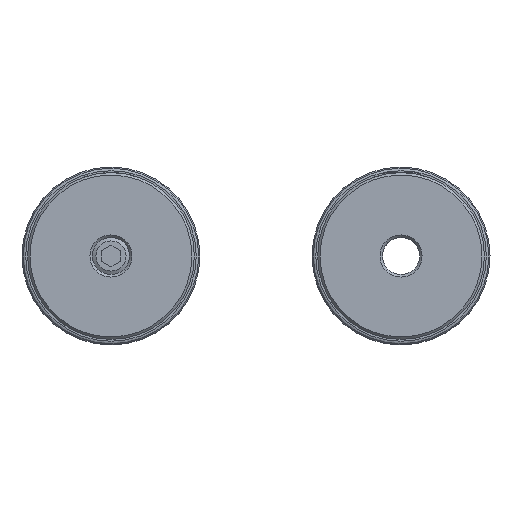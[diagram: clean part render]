
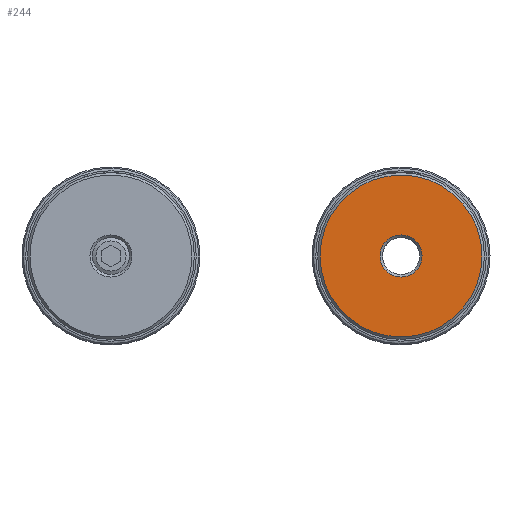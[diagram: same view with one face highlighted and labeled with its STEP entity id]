
A CAD part, left-side view. The second image highlights one B-rep face of the part: STEP entity #244.
In plain terms, the highlighted planar face has unit normal (-1, 0, 0).
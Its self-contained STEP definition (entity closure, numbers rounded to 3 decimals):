
#244 = ADVANCED_FACE( 'NONE', ( #425, #426 ), #427, .F. );
#425 = FACE_OUTER_BOUND( '', #684, .T. );
#426 = FACE_BOUND( '', #685, .T. );
#427 = PLANE( '', #686 );
#684 = EDGE_LOOP( '', ( #972 ) );
#685 = EDGE_LOOP( '', ( #973 ) );
#686 = AXIS2_PLACEMENT_3D( '', #974, #975, #976 );
#972 = ORIENTED_EDGE( '', *, *, #1390, .T. );
#973 = ORIENTED_EDGE( '', *, *, #1384, .T. );
#974 = CARTESIAN_POINT( '', ( 0., 1.5, 0. ) );
#975 = DIRECTION( '', ( 1., 0., 0. ) );
#976 = DIRECTION( '', ( 0., 1., 0. ) );
#1384 = EDGE_CURVE( 'NONE', #1493, #1493, #1494, .T. );
#1390 = EDGE_CURVE( 'NONE', #1505, #1505, #1506, .F. );
#1493 = VERTEX_POINT( '', #1694 );
#1494 = CIRCLE( '', #1695, 1.7 );
#1505 = VERTEX_POINT( '', #1706 );
#1506 = CIRCLE( '', #1707, 6.55 );
#1694 = CARTESIAN_POINT( '', ( 0., 0., -1.7 ) );
#1695 = AXIS2_PLACEMENT_3D( '', #1846, #1847, #1848 );
#1706 = CARTESIAN_POINT( '', ( 0., 0., -6.55 ) );
#1707 = AXIS2_PLACEMENT_3D( '', #1864, #1865, #1866 );
#1846 = CARTESIAN_POINT( '', ( 0., 0., 0. ) );
#1847 = DIRECTION( '', ( 1., 0., 0. ) );
#1848 = DIRECTION( '', ( 0., 0., -1. ) );
#1864 = CARTESIAN_POINT( '', ( 0., 0., 0. ) );
#1865 = DIRECTION( '', ( 1., 0., 0. ) );
#1866 = DIRECTION( '', ( 0., 0., -1. ) );
